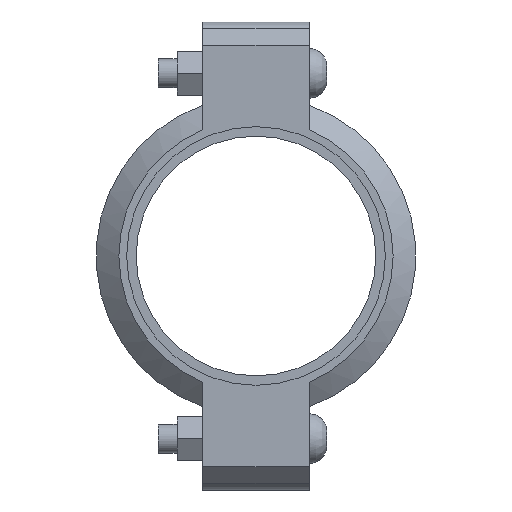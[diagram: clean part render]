
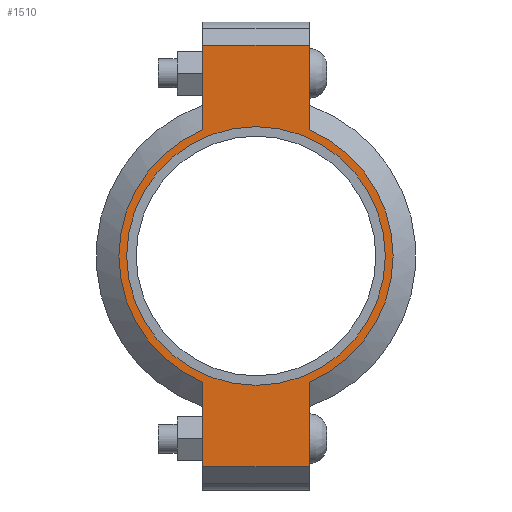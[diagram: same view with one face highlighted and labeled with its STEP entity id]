
A CAD part, left-side view. The second image highlights one B-rep face of the part: STEP entity #1510.
In plain terms, the highlighted planar face has unit normal (-1, 0, 0) as drawn and (0, 0, 1) by its records, which use the part's own axes.
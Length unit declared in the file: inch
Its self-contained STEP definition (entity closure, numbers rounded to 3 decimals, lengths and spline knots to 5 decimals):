
#134=LINE('',#2635,#227);
#142=LINE('',#2671,#235);
#149=LINE('',#2692,#242);
#158=LINE('',#2724,#251);
#159=LINE('',#2728,#252);
#160=LINE('',#2730,#253);
#227=VECTOR('',#2155,0.3937);
#235=VECTOR('',#2171,0.3937);
#242=VECTOR('',#2190,0.3937);
#251=VECTOR('',#2215,0.3937);
#252=VECTOR('',#2220,0.3937);
#253=VECTOR('',#2221,0.3937);
#309=FACE_BOUND('',#487,.T.);
#381=FACE_OUTER_BOUND('',#486,.T.);
#486=EDGE_LOOP('',(#1251,#1252,#1253,#1254,#1255,#1256,#1257,#1258));
#487=EDGE_LOOP('',(#1259));
#559=CIRCLE('',#1729,2.7815);
#585=CIRCLE('',#1788,2.95);
#586=CIRCLE('',#1789,2.95);
#651=VERTEX_POINT('',#2451);
#694=VERTEX_POINT('',#2632);
#695=VERTEX_POINT('',#2634);
#706=VERTEX_POINT('',#2666);
#707=VERTEX_POINT('',#2670);
#714=VERTEX_POINT('',#2689);
#715=VERTEX_POINT('',#2691);
#725=VERTEX_POINT('',#2727);
#726=VERTEX_POINT('',#2729);
#807=EDGE_CURVE('',#651,#651,#559,.T.);
#868=EDGE_CURVE('',#695,#694,#134,.T.);
#882=EDGE_CURVE('',#707,#706,#142,.T.);
#892=EDGE_CURVE('',#715,#714,#149,.T.);
#907=EDGE_CURVE('',#707,#694,#158,.T.);
#908=EDGE_CURVE('',#706,#715,#585,.T.);
#909=EDGE_CURVE('',#725,#714,#159,.T.);
#910=EDGE_CURVE('',#725,#726,#160,.T.);
#911=EDGE_CURVE('',#726,#695,#586,.T.);
#1251=ORIENTED_EDGE('',*,*,#907,.F.);
#1252=ORIENTED_EDGE('',*,*,#882,.T.);
#1253=ORIENTED_EDGE('',*,*,#908,.T.);
#1254=ORIENTED_EDGE('',*,*,#892,.T.);
#1255=ORIENTED_EDGE('',*,*,#909,.F.);
#1256=ORIENTED_EDGE('',*,*,#910,.T.);
#1257=ORIENTED_EDGE('',*,*,#911,.T.);
#1258=ORIENTED_EDGE('',*,*,#868,.T.);
#1259=ORIENTED_EDGE('',*,*,#807,.T.);
#1352=PLANE('',#1787);
#1510=ADVANCED_FACE('',(#381,#309),#1352,.T.);
#1729=AXIS2_PLACEMENT_3D('',#2453,#2031,#2032);
#1787=AXIS2_PLACEMENT_3D('',#2725,#2216,#2217);
#1788=AXIS2_PLACEMENT_3D('',#2726,#2218,#2219);
#1789=AXIS2_PLACEMENT_3D('',#2731,#2222,#2223);
#2031=DIRECTION('center_axis',(0.,0.,-1.));
#2032=DIRECTION('ref_axis',(-1.,0.,0.));
#2155=DIRECTION('',(-1.,0.,0.));
#2171=DIRECTION('',(1.,0.,0.));
#2190=DIRECTION('',(1.,0.,0.));
#2215=DIRECTION('',(0.,1.,0.));
#2216=DIRECTION('center_axis',(0.,0.,1.));
#2217=DIRECTION('ref_axis',(1.,0.,0.));
#2218=DIRECTION('center_axis',(0.,0.,1.));
#2219=DIRECTION('ref_axis',(-1.,0.,0.));
#2220=DIRECTION('',(0.,-1.,0.));
#2221=DIRECTION('',(-1.,0.,0.));
#2222=DIRECTION('center_axis',(0.,0.,1.));
#2223=DIRECTION('ref_axis',(-1.,0.,0.));
#2451=CARTESIAN_POINT('',(2.7815,0.,1.065));
#2453=CARTESIAN_POINT('Origin',(0.,0.,1.065));
#2632=CARTESIAN_POINT('',(-4.535,1.15,1.065));
#2634=CARTESIAN_POINT('',(-2.71662,1.15,1.065));
#2635=CARTESIAN_POINT('',(-5.035,1.15,1.065));
#2666=CARTESIAN_POINT('',(-2.71662,-1.15,1.065));
#2670=CARTESIAN_POINT('',(-4.535,-1.15,1.065));
#2671=CARTESIAN_POINT('',(5.035,-1.15,1.065));
#2689=CARTESIAN_POINT('',(4.535,-1.15,1.065));
#2691=CARTESIAN_POINT('',(2.71662,-1.15,1.065));
#2692=CARTESIAN_POINT('',(5.035,-1.15,1.065));
#2724=CARTESIAN_POINT('',(-4.535,0.575,1.065));
#2725=CARTESIAN_POINT('Origin',(0.,0.,1.065));
#2726=CARTESIAN_POINT('Origin',(0.,0.,1.065));
#2727=CARTESIAN_POINT('',(4.535,1.15,1.065));
#2728=CARTESIAN_POINT('',(4.535,-0.575,1.065));
#2729=CARTESIAN_POINT('',(2.71662,1.15,1.065));
#2730=CARTESIAN_POINT('',(-5.035,1.15,1.065));
#2731=CARTESIAN_POINT('Origin',(0.,0.,1.065));
